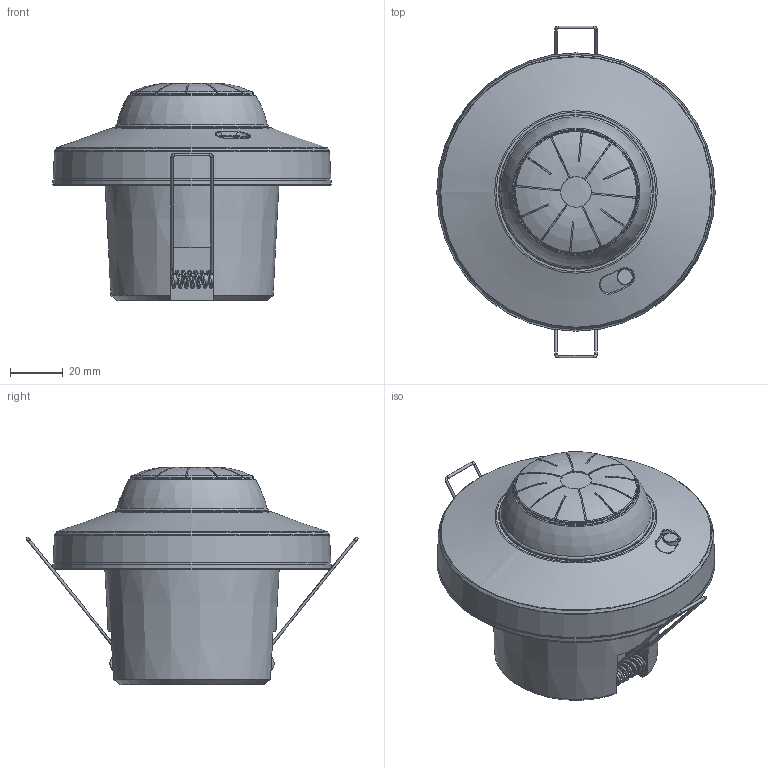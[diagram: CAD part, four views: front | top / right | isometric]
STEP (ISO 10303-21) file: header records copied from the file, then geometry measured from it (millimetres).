
FILE_DESCRIPTION (( 'STEP AP203' ), '1' );
FILE_NAME ('9C1-4552213-000-00.STP', '2025-10-29T15:00:16', ( '' ), ( '' ), 'SwSTEP 2.0', 'SolidWorks 2023', '' );
FILE_SCHEMA (( 'CONFIG_CONTROL_DESIGN' ));
Length unit declared in the file: millimetre
Products named in the file (7): 4550450swm000; 4550476swm000; 4550448swm000; 4550458swm000; 4550456swm000; 4550474swm000; 9C1-4552213-000-00
Assembly tree (7 placements, depth 2):
  9C1-4552213-000-00
    4550458swm000
    4550474swm000
    4550450swm000
    4550456swm000
    4550448swm000  x2
    4550476swm000
Bounding box: 105.1 x 125.33 x 81.98 mm (x, y, z)
Volume: 237783.8 mm3; surface area: 98440.2 mm2
Topology: 7 solids, 7 shells, 417 faces, 1052 edges, 687 vertices
Faces by surface type: plane 223, cylinder 75, torus 50, bspline 37, cone 31, sphere 1
Full cylindrical faces by diameter (mm): 1 x12, 2.7 x2, 2.8 x2, 3.072 x2, 3.5 x4, 3.8 x9, 5 x2, 5.2 x2, 5.8 x2, 6 x1, 6.572 x2, 8 x2, 11.6 x1, 15.2 x2, 55 x1, 55.64 x1, 56.5 x1, 65 x1, 65.5 x1
Entity records: 15723 total; most frequent: CARTESIAN_POINT 6538, ORIENTED_EDGE 1684, DIRECTION 1604, EDGE_CURVE 842, AXIS2_PLACEMENT_3D 629, VERTEX_POINT 599, EDGE_LOOP 555, FACE_OUTER_BOUND 458
